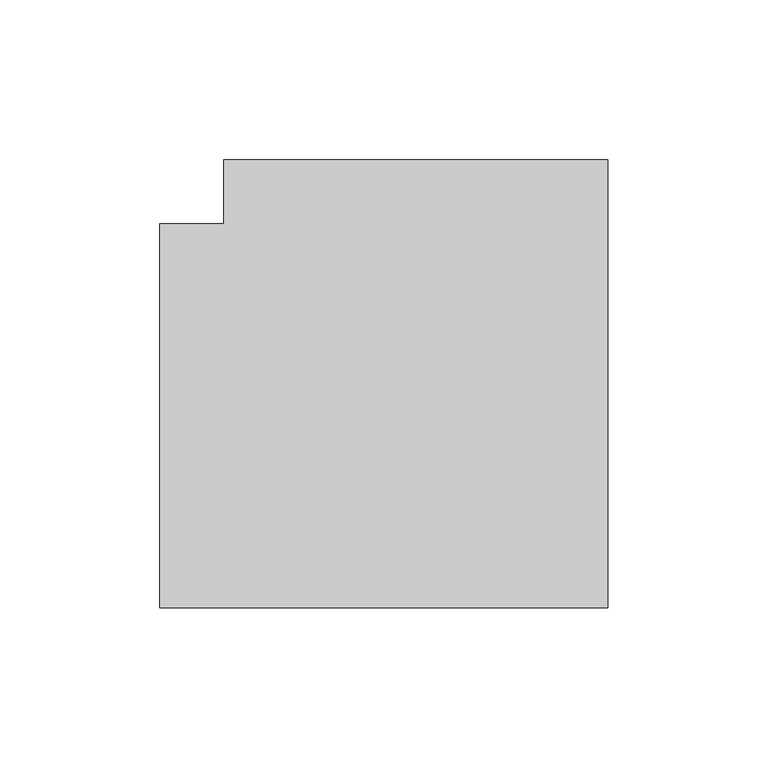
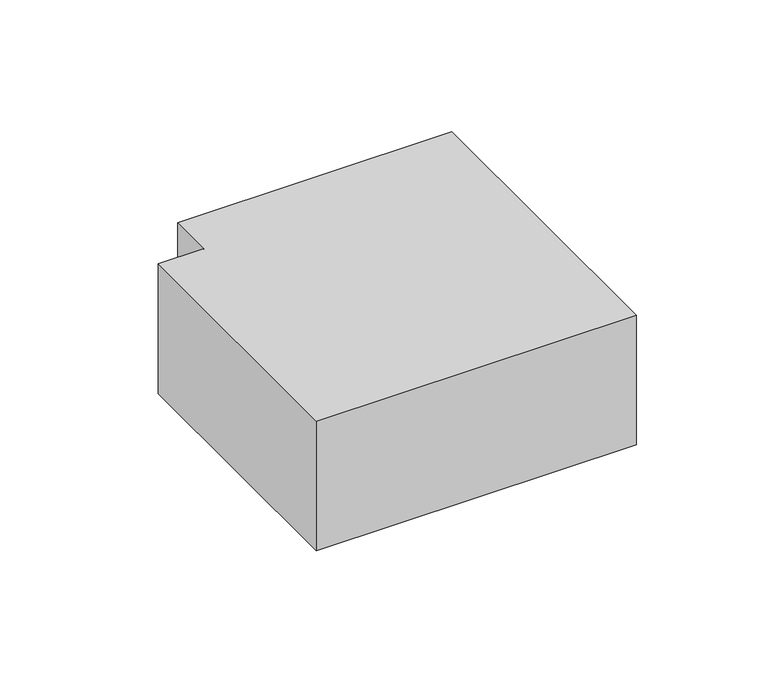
"""IFC4 building model written with IfcOpenShell, lengths in millimetres: duct fitting geometry, КНС_Угол_DKC : Угол внешний."""

from ifc_helpers import new_model, si_unit, frame, origin, place, context, project, spatial, polyline, outline, extrude, source, transform, mapped, element, save


def duct_fitting_fdef7a42(model_context):
    return source(origin(), model_context, "Body", "SweptSolid", [
        extrude(outline(polyline([(-60.0, 80.0), (60.0, 80.0), (60.0, -60.0), (-80.0, -60.0), (-80.0, 60.0), (-60.0, 60.0), (-60.0, 80.0)])), frame((0.0, 0.0, -30.0), z_axis=(0.0, 0.0, 1.0), x_axis=(1.0, 0.0, 0.0)), (0.0, 0.0, 1.0), 60.0),
    ])


if __name__ == "__main__":
    model = new_model("IFC4")
    model_context = context("Model", 3, world=origin())
    ifc_project = project(units=[si_unit("LENGTHUNIT", "METRE", prefix="MILLI")], contexts=[model_context])
    site = spatial("IfcSite", under=ifc_project)
    building = spatial("IfcBuilding", under=site)
    placement = place(None, origin())
    duct_fitting_shape = duct_fitting_fdef7a42(model_context)
    element("IfcDuctFitting", 1, ObjectType="КНС_Угол_DKC : Угол внешний", at=placement, inside=building, context=model_context, shape_type="MappedRepresentation", body=[
        mapped(duct_fitting_shape, transform((0.0, 0.0, 0.0), x_axis=(1.0, 0.0, 0.0), y_axis=(0.0, 1.0, 0.0), z_axis=(0.0, 0.0, 1.0))),
    ])
    save(model, "model.ifc")
